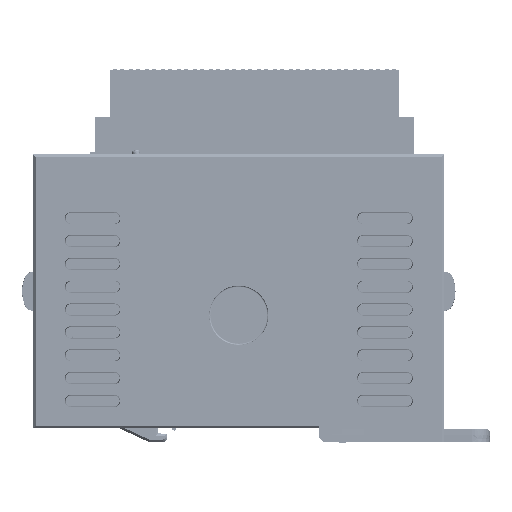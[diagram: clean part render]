
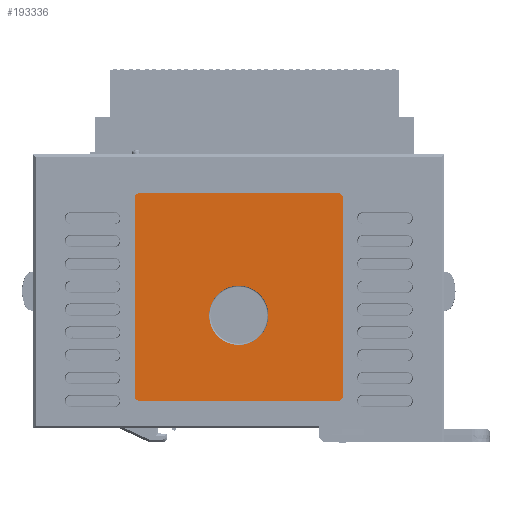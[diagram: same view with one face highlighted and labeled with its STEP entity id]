
A CAD part, left-side view. The second image highlights one B-rep face of the part: STEP entity #193336.
In plain terms, the highlighted planar face has unit normal (-1, 0, 0) as drawn and (0, 0, 1) by its records, which use the part's own axes.
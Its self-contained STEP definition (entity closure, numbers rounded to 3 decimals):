
#6741 = CARTESIAN_POINT ( 'NONE',  ( 16.751, 10., 38.24 ) ) ;
#9752 = DIRECTION ( 'NONE',  ( 0., 0., 1. ) ) ;
#18483 = VERTEX_POINT ( 'NONE', #151318 ) ;
#19583 = AXIS2_PLACEMENT_3D ( 'NONE', #311347, #9752, #110216 ) ;
#32005 = CIRCLE ( 'NONE', #216160, 1. ) ;
#33000 = VERTEX_POINT ( 'NONE', #266330 ) ;
#33440 = CARTESIAN_POINT ( 'NONE',  ( 15.751, -11.75, 38.24 ) ) ;
#36300 = EDGE_LOOP ( 'NONE', ( #224718, #44398, #181128, #47913, #75457, #216628, #145798, #88970 ) ) ;
#36833 = VERTEX_POINT ( 'NONE', #105483 ) ;
#42181 = EDGE_LOOP ( 'NONE', ( #87452, #291493 ) ) ;
#44398 = ORIENTED_EDGE ( 'NONE', *, *, #273486, .F. ) ;
#46983 = FACE_OUTER_BOUND ( 'NONE', #36300, .T. ) ;
#47097 = VERTEX_POINT ( 'NONE', #255388 ) ;
#47820 = VERTEX_POINT ( 'NONE', #100824 ) ;
#47913 = ORIENTED_EDGE ( 'NONE', *, *, #239725, .F. ) ;
#55540 = DIRECTION ( 'NONE',  ( 0., -1., 0. ) ) ;
#59841 = CARTESIAN_POINT ( 'NONE',  ( -27.749, -11.75, 38.24 ) ) ;
#67531 = DIRECTION ( 'NONE',  ( 0., 0., 1. ) ) ;
#68718 = VERTEX_POINT ( 'NONE', #253050 ) ;
#71369 = LINE ( 'NONE', #171878, #131738 ) ;
#75457 = ORIENTED_EDGE ( 'NONE', *, *, #185009, .F. ) ;
#80267 = CARTESIAN_POINT ( 'NONE',  ( 15.751, 31.75, 38.24 ) ) ;
#82936 = DIRECTION ( 'NONE',  ( 0., -1., 0. ) ) ;
#83795 = AXIS2_PLACEMENT_3D ( 'NONE', #266940, #67531, #240496 ) ;
#87452 = ORIENTED_EDGE ( 'NONE', *, *, #260354, .F. ) ;
#88926 = CIRCLE ( 'NONE', #83795, 6.5 ) ;
#88970 = ORIENTED_EDGE ( 'NONE', *, *, #283157, .F. ) ;
#93141 = PLANE ( 'NONE',  #143950 ) ;
#96984 = VERTEX_POINT ( 'NONE', #243033 ) ;
#100824 = CARTESIAN_POINT ( 'NONE',  ( 15.751, 32.75, 38.24 ) ) ;
#105483 = CARTESIAN_POINT ( 'NONE',  ( 16.751, -11.75, 38.24 ) ) ;
#106426 = AXIS2_PLACEMENT_3D ( 'NONE', #59841, #112480, #82936 ) ;
#110216 = DIRECTION ( 'NONE',  ( 0., 1., 0. ) ) ;
#111796 = CIRCLE ( 'NONE', #106426, 1. ) ;
#112480 = DIRECTION ( 'NONE',  ( 0., 0., -1. ) ) ;
#112537 = DIRECTION ( 'NONE',  ( 1., 0., 0. ) ) ;
#114017 = CARTESIAN_POINT ( 'NONE',  ( -27.749, 31.75, 38.24 ) ) ;
#124048 = AXIS2_PLACEMENT_3D ( 'NONE', #114017, #239217, #288819 ) ;
#124331 = FACE_BOUND ( 'NONE', #42181, .T. ) ;
#125529 = CIRCLE ( 'NONE', #241266, 1. ) ;
#128753 = CARTESIAN_POINT ( 'NONE',  ( 16.751, 31.75, 38.24 ) ) ;
#131738 = VECTOR ( 'NONE', #151975, 1000. ) ;
#139985 = VERTEX_POINT ( 'NONE', #128753 ) ;
#143652 = EDGE_CURVE ( 'NONE', #68718, #150035, #303795, .T. ) ;
#143950 = AXIS2_PLACEMENT_3D ( 'NONE', #297493, #219992, #269520 ) ;
#145798 = ORIENTED_EDGE ( 'NONE', *, *, #202861, .F. ) ;
#150035 = VERTEX_POINT ( 'NONE', #295972 ) ;
#151118 = DIRECTION ( 'NONE',  ( 0., 0., -1. ) ) ;
#151318 = CARTESIAN_POINT ( 'NONE',  ( 15.751, -12.75, 38.24 ) ) ;
#151975 = DIRECTION ( 'NONE',  ( 0., 1., 0. ) ) ;
#171878 = CARTESIAN_POINT ( 'NONE',  ( -28.749, 10., 38.24 ) ) ;
#181128 = ORIENTED_EDGE ( 'NONE', *, *, #188447, .F. ) ;
#185009 = EDGE_CURVE ( 'NONE', #33000, #240387, #229408, .T. ) ;
#186698 = CARTESIAN_POINT ( 'NONE',  ( -5.999, 32.75, 38.24 ) ) ;
#188447 = EDGE_CURVE ( 'NONE', #47820, #139985, #125529, .T. ) ;
#189203 = EDGE_CURVE ( 'NONE', #47097, #33000, #71369, .T. ) ;
#189943 = LINE ( 'NONE', #186698, #307248 ) ;
#193336 = ADVANCED_FACE ( 'NONE', ( #124331, #46983 ), #93141, .T. ) ;
#196018 = CARTESIAN_POINT ( 'NONE',  ( -27.749, 32.75, 38.24 ) ) ;
#196088 = VECTOR ( 'NONE', #303481, 1000. ) ;
#198703 = CARTESIAN_POINT ( 'NONE',  ( -5.999, -12.75, 38.24 ) ) ;
#202861 = EDGE_CURVE ( 'NONE', #96984, #47097, #111796, .T. ) ;
#206075 = LINE ( 'NONE', #6741, #196088 ) ;
#216160 = AXIS2_PLACEMENT_3D ( 'NONE', #33440, #313552, #236019 ) ;
#216628 = ORIENTED_EDGE ( 'NONE', *, *, #189203, .F. ) ;
#219992 = DIRECTION ( 'NONE',  ( 0., 0., 1. ) ) ;
#224718 = ORIENTED_EDGE ( 'NONE', *, *, #271537, .F. ) ;
#229408 = CIRCLE ( 'NONE', #124048, 1. ) ;
#236019 = DIRECTION ( 'NONE',  ( 1., 0., 0. ) ) ;
#239217 = DIRECTION ( 'NONE',  ( 0., 0., -1. ) ) ;
#239725 = EDGE_CURVE ( 'NONE', #240387, #47820, #189943, .T. ) ;
#240387 = VERTEX_POINT ( 'NONE', #196018 ) ;
#240496 = DIRECTION ( 'NONE',  ( 0., 1., 0. ) ) ;
#241266 = AXIS2_PLACEMENT_3D ( 'NONE', #80267, #151118, #55540 ) ;
#243033 = CARTESIAN_POINT ( 'NONE',  ( -27.749, -12.75, 38.24 ) ) ;
#253050 = CARTESIAN_POINT ( 'NONE',  ( -16.5, 10., 38.24 ) ) ;
#255388 = CARTESIAN_POINT ( 'NONE',  ( -28.749, -11.75, 38.24 ) ) ;
#260354 = EDGE_CURVE ( 'NONE', #150035, #68718, #88926, .T. ) ;
#266330 = CARTESIAN_POINT ( 'NONE',  ( -28.749, 31.75, 38.24 ) ) ;
#266940 = CARTESIAN_POINT ( 'NONE',  ( -10., 10., 38.24 ) ) ;
#269520 = DIRECTION ( 'NONE',  ( 0., -1., 0. ) ) ;
#271537 = EDGE_CURVE ( 'NONE', #36833, #18483, #32005, .T. ) ;
#273486 = EDGE_CURVE ( 'NONE', #139985, #36833, #206075, .T. ) ;
#283157 = EDGE_CURVE ( 'NONE', #18483, #96984, #324092, .T. ) ;
#288819 = DIRECTION ( 'NONE',  ( 0., -1., 0. ) ) ;
#289142 = VECTOR ( 'NONE', #297666, 1000. ) ;
#291493 = ORIENTED_EDGE ( 'NONE', *, *, #143652, .F. ) ;
#295972 = CARTESIAN_POINT ( 'NONE',  ( -3.5, 10., 38.24 ) ) ;
#297493 = CARTESIAN_POINT ( 'NONE',  ( -31.024, -15.025, 38.24 ) ) ;
#297666 = DIRECTION ( 'NONE',  ( -1., 0., 0. ) ) ;
#303481 = DIRECTION ( 'NONE',  ( 0., -1., 0. ) ) ;
#303795 = CIRCLE ( 'NONE', #19583, 6.5 ) ;
#307248 = VECTOR ( 'NONE', #112537, 1000. ) ;
#311347 = CARTESIAN_POINT ( 'NONE',  ( -10., 10., 38.24 ) ) ;
#313552 = DIRECTION ( 'NONE',  ( 0., 0., -1. ) ) ;
#324092 = LINE ( 'NONE', #198703, #289142 ) ;
